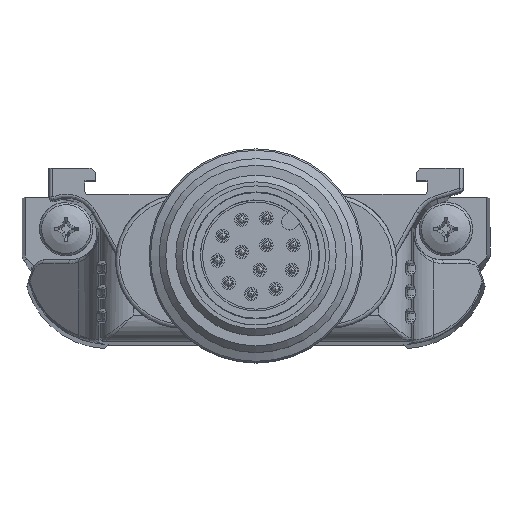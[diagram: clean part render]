
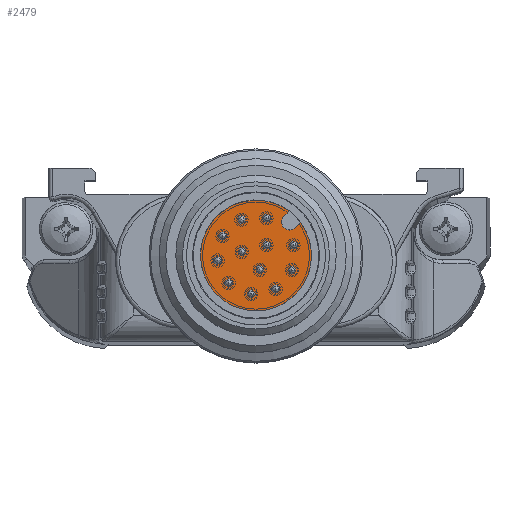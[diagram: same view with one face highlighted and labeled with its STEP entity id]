
A CAD part, top view. The second image highlights one B-rep face of the part: STEP entity #2479.
In plain terms, the highlighted planar face has unit normal (0, 0, 1) as drawn and (0, 0, -1) by its records, which use the part's own axes.
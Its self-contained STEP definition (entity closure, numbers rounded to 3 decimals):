
#2479=ADVANCED_FACE('',(#3488,#3489,#3490,#3491,#3492,#3493,#3494,#3495,
#3496,#3497,#3498,#3499,#3500),#3170,.T.);
#3170=PLANE('',#17032);
#3488=FACE_BOUND('',#4717,.T.);
#3489=FACE_BOUND('',#4718,.T.);
#3490=FACE_BOUND('',#4719,.T.);
#3491=FACE_BOUND('',#4720,.T.);
#3492=FACE_BOUND('',#4721,.T.);
#3493=FACE_BOUND('',#4722,.T.);
#3494=FACE_BOUND('',#4723,.T.);
#3495=FACE_BOUND('',#4724,.T.);
#3496=FACE_BOUND('',#4725,.T.);
#3497=FACE_BOUND('',#4726,.T.);
#3498=FACE_BOUND('',#4727,.T.);
#3499=FACE_BOUND('',#4728,.T.);
#3500=FACE_BOUND('',#4729,.T.);
#4717=EDGE_LOOP('',(#9328));
#4718=EDGE_LOOP('',(#9329));
#4719=EDGE_LOOP('',(#9330));
#4720=EDGE_LOOP('',(#9331));
#4721=EDGE_LOOP('',(#9332));
#4722=EDGE_LOOP('',(#9333));
#4723=EDGE_LOOP('',(#9334));
#4724=EDGE_LOOP('',(#9335));
#4725=EDGE_LOOP('',(#9336));
#4726=EDGE_LOOP('',(#9337));
#4727=EDGE_LOOP('',(#9338));
#4728=EDGE_LOOP('',(#9339));
#4729=EDGE_LOOP('',(#9340,#9341,#9342,#9343));
#5243=CIRCLE('',#17012,0.6);
#5246=CIRCLE('',#17019,0.3);
#5247=CIRCLE('',#17020,0.3);
#5248=CIRCLE('',#17021,0.3);
#5249=CIRCLE('',#17022,0.3);
#5250=CIRCLE('',#17023,0.3);
#5251=CIRCLE('',#17024,0.3);
#5252=CIRCLE('',#17025,0.3);
#5253=CIRCLE('',#17026,0.3);
#5254=CIRCLE('',#17027,0.3);
#5255=CIRCLE('',#17028,0.3);
#5256=CIRCLE('',#17029,0.3);
#5257=CIRCLE('',#17030,0.3);
#5258=CIRCLE('',#17031,4.15);
#9328=ORIENTED_EDGE('',*,*,#12933,.F.);
#9329=ORIENTED_EDGE('',*,*,#12934,.F.);
#9330=ORIENTED_EDGE('',*,*,#12935,.F.);
#9331=ORIENTED_EDGE('',*,*,#12936,.F.);
#9332=ORIENTED_EDGE('',*,*,#12937,.F.);
#9333=ORIENTED_EDGE('',*,*,#12938,.F.);
#9334=ORIENTED_EDGE('',*,*,#12939,.F.);
#9335=ORIENTED_EDGE('',*,*,#12940,.F.);
#9336=ORIENTED_EDGE('',*,*,#12941,.F.);
#9337=ORIENTED_EDGE('',*,*,#12942,.F.);
#9338=ORIENTED_EDGE('',*,*,#12943,.F.);
#9339=ORIENTED_EDGE('',*,*,#12944,.F.);
#9340=ORIENTED_EDGE('',*,*,#12922,.T.);
#9341=ORIENTED_EDGE('',*,*,#12931,.T.);
#9342=ORIENTED_EDGE('',*,*,#12945,.T.);
#9343=ORIENTED_EDGE('',*,*,#12926,.T.);
#10888=VERTEX_POINT('',#26890);
#10889=VERTEX_POINT('',#26891);
#10892=VERTEX_POINT('',#26899);
#10895=VERTEX_POINT('',#26909);
#10896=VERTEX_POINT('',#26913);
#10897=VERTEX_POINT('',#26915);
#10898=VERTEX_POINT('',#26917);
#10899=VERTEX_POINT('',#26919);
#10900=VERTEX_POINT('',#26921);
#10901=VERTEX_POINT('',#26923);
#10902=VERTEX_POINT('',#26925);
#10903=VERTEX_POINT('',#26927);
#10904=VERTEX_POINT('',#26929);
#10905=VERTEX_POINT('',#26931);
#10906=VERTEX_POINT('',#26933);
#10907=VERTEX_POINT('',#26935);
#12922=EDGE_CURVE('',#10888,#10889,#5243,.T.);
#12926=EDGE_CURVE('',#10892,#10888,#14463,.T.);
#12931=EDGE_CURVE('',#10889,#10895,#14467,.T.);
#12933=EDGE_CURVE('',#10896,#10896,#5246,.T.);
#12934=EDGE_CURVE('',#10897,#10897,#5247,.T.);
#12935=EDGE_CURVE('',#10898,#10898,#5248,.T.);
#12936=EDGE_CURVE('',#10899,#10899,#5249,.T.);
#12937=EDGE_CURVE('',#10900,#10900,#5250,.T.);
#12938=EDGE_CURVE('',#10901,#10901,#5251,.T.);
#12939=EDGE_CURVE('',#10902,#10902,#5252,.T.);
#12940=EDGE_CURVE('',#10903,#10903,#5253,.T.);
#12941=EDGE_CURVE('',#10904,#10904,#5254,.T.);
#12942=EDGE_CURVE('',#10905,#10905,#5255,.T.);
#12943=EDGE_CURVE('',#10906,#10906,#5256,.T.);
#12944=EDGE_CURVE('',#10907,#10907,#5257,.T.);
#12945=EDGE_CURVE('',#10895,#10892,#5258,.T.);
#14463=LINE('',#26898,#15855);
#14467=LINE('',#26908,#15859);
#15855=VECTOR('',#20988,1.);
#15859=VECTOR('',#20998,1.);
#17012=AXIS2_PLACEMENT_3D('',#26889,#20980,#20981);
#17019=AXIS2_PLACEMENT_3D('',#26912,#21002,#21003);
#17020=AXIS2_PLACEMENT_3D('',#26914,#21004,#21005);
#17021=AXIS2_PLACEMENT_3D('',#26916,#21006,#21007);
#17022=AXIS2_PLACEMENT_3D('',#26918,#21008,#21009);
#17023=AXIS2_PLACEMENT_3D('',#26920,#21010,#21011);
#17024=AXIS2_PLACEMENT_3D('',#26922,#21012,#21013);
#17025=AXIS2_PLACEMENT_3D('',#26924,#21014,#21015);
#17026=AXIS2_PLACEMENT_3D('',#26926,#21016,#21017);
#17027=AXIS2_PLACEMENT_3D('',#26928,#21018,#21019);
#17028=AXIS2_PLACEMENT_3D('',#26930,#21020,#21021);
#17029=AXIS2_PLACEMENT_3D('',#26932,#21022,#21023);
#17030=AXIS2_PLACEMENT_3D('',#26934,#21024,#21025);
#17031=AXIS2_PLACEMENT_3D('',#26936,#21026,#21027);
#17032=AXIS2_PLACEMENT_3D('',#26937,#21028,#21029);
#20980=DIRECTION('',(0.,0.,1.));
#20981=DIRECTION('',(1.,0.,0.));
#20988=DIRECTION('',(-0.707,0.707,0.));
#20998=DIRECTION('',(0.707,-0.707,0.));
#21002=DIRECTION('',(0.,0.,-1.));
#21003=DIRECTION('',(0.707,-0.707,0.));
#21004=DIRECTION('',(0.,0.,-1.));
#21005=DIRECTION('',(0.707,-0.707,0.));
#21006=DIRECTION('',(0.,0.,-1.));
#21007=DIRECTION('',(0.707,-0.707,0.));
#21008=DIRECTION('',(0.,0.,-1.));
#21009=DIRECTION('',(0.707,-0.707,0.));
#21010=DIRECTION('',(0.,0.,-1.));
#21011=DIRECTION('',(0.707,-0.707,0.));
#21012=DIRECTION('',(0.,0.,-1.));
#21013=DIRECTION('',(0.707,-0.707,0.));
#21014=DIRECTION('',(0.,0.,-1.));
#21015=DIRECTION('',(0.707,-0.707,0.));
#21016=DIRECTION('',(0.,0.,-1.));
#21017=DIRECTION('',(0.707,-0.707,0.));
#21018=DIRECTION('',(0.,0.,-1.));
#21019=DIRECTION('',(0.707,-0.707,0.));
#21020=DIRECTION('',(0.,0.,-1.));
#21021=DIRECTION('',(0.707,-0.707,0.));
#21022=DIRECTION('',(0.,0.,-1.));
#21023=DIRECTION('',(0.707,-0.707,0.));
#21024=DIRECTION('',(0.,0.,-1.));
#21025=DIRECTION('',(0.707,-0.707,0.));
#21026=DIRECTION('',(0.,0.,-1.));
#21027=DIRECTION('',(1.,0.,0.));
#21028=DIRECTION('',(0.,0.,-1.));
#21029=DIRECTION('',(-1.,0.,0.));
#26889=CARTESIAN_POINT('',(42.947,-31.141,8.));
#26890=CARTESIAN_POINT('',(43.371,-30.717,8.));
#26891=CARTESIAN_POINT('',(42.523,-31.565,8.));
#26898=CARTESIAN_POINT('',(43.765,-31.11,8.));
#26899=CARTESIAN_POINT('',(43.765,-31.11,8.));
#26908=CARTESIAN_POINT('',(42.523,-31.565,8.));
#26909=CARTESIAN_POINT('',(42.916,-31.959,8.));
#26912=CARTESIAN_POINT('',(37.932,-30.092,8.));
#26913=CARTESIAN_POINT('',(38.144,-30.304,8.));
#26914=CARTESIAN_POINT('',(39.374,-28.916,8.));
#26915=CARTESIAN_POINT('',(39.587,-29.128,8.));
#26916=CARTESIAN_POINT('',(37.561,-28.259,8.));
#26917=CARTESIAN_POINT('',(37.773,-28.471,8.));
#26918=CARTESIAN_POINT('',(39.345,-31.317,8.));
#26919=CARTESIAN_POINT('',(39.557,-31.53,8.));
#26920=CARTESIAN_POINT('',(41.212,-31.425,8.));
#26921=CARTESIAN_POINT('',(41.424,-31.638,8.));
#26922=CARTESIAN_POINT('',(41.215,-29.409,8.));
#26923=CARTESIAN_POINT('',(41.427,-29.621,8.));
#26924=CARTESIAN_POINT('',(43.231,-29.406,8.));
#26925=CARTESIAN_POINT('',(43.444,-29.618,8.));
#26926=CARTESIAN_POINT('',(40.722,-27.568,8.));
#26927=CARTESIAN_POINT('',(40.934,-27.781,8.));
#26928=CARTESIAN_POINT('',(43.123,-27.539,8.));
#26929=CARTESIAN_POINT('',(43.336,-27.751,8.));
#26930=CARTESIAN_POINT('',(38.386,-26.58,8.));
#26931=CARTESIAN_POINT('',(38.598,-26.792,8.));
#26932=CARTESIAN_POINT('',(40.065,-25.755,8.));
#26933=CARTESIAN_POINT('',(40.277,-25.967,8.));
#26934=CARTESIAN_POINT('',(41.898,-26.126,8.));
#26935=CARTESIAN_POINT('',(42.11,-26.338,8.));
#26936=CARTESIAN_POINT('',(40.437,-28.631,8.));
#26937=CARTESIAN_POINT('',(40.437,-28.631,8.));
